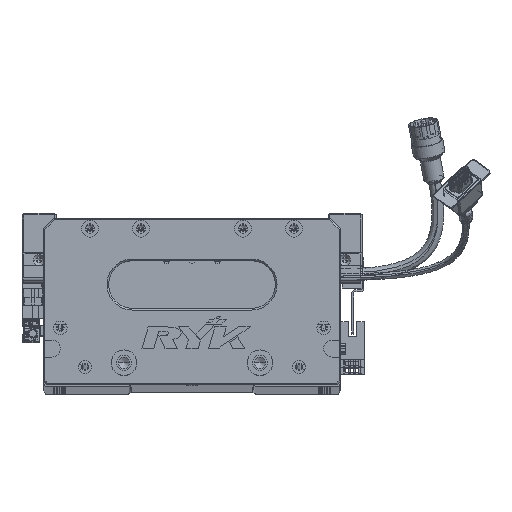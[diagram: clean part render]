
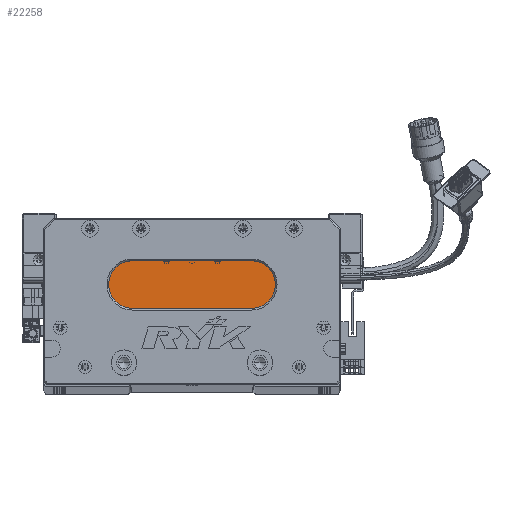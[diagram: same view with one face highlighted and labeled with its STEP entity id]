
A CAD part, top view. The second image highlights one B-rep face of the part: STEP entity #22258.
In plain terms, the highlighted planar face has unit normal (0, 0, 1) as drawn and (0, 0, -1) by its records, which use the part's own axes.
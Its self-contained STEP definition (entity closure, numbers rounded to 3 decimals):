
#352 = ORIENTED_EDGE ( 'NONE', *, *, #91911, .T. ) ;
#4064 = ORIENTED_EDGE ( 'NONE', *, *, #106538, .T. ) ;
#5101 = VERTEX_POINT ( 'NONE', #61470 ) ;
#6335 = CARTESIAN_POINT ( 'NONE',  ( 122.5, 45., 18. ) ) ;
#9171 = DIRECTION ( 'NONE',  ( -1., 0., 0. ) ) ;
#9575 = CARTESIAN_POINT ( 'NONE',  ( 122.5, 59., 18. ) ) ;
#10526 = CARTESIAN_POINT ( 'NONE',  ( 52.5, 59., 18. ) ) ;
#11102 = VERTEX_POINT ( 'NONE', #87379 ) ;
#22258 = ADVANCED_FACE ( 'NONE', ( #113887 ), #47347, .T. ) ;
#32051 = DIRECTION ( 'NONE',  ( 0., 0., -1. ) ) ;
#36677 = VECTOR ( 'NONE', #85733, 1000. ) ;
#43635 = VERTEX_POINT ( 'NONE', #114577 ) ;
#45550 = AXIS2_PLACEMENT_3D ( 'NONE', #10526, #119510, #118675 ) ;
#46745 = CIRCLE ( 'NONE', #45550, 14. ) ;
#47347 = PLANE ( 'NONE',  #82382 ) ;
#50653 = ORIENTED_EDGE ( 'NONE', *, *, #110152, .T. ) ;
#54072 = VERTEX_POINT ( 'NONE', #109776 ) ;
#55161 = CARTESIAN_POINT ( 'NONE',  ( 122.5, 73., 18. ) ) ;
#61470 = CARTESIAN_POINT ( 'NONE',  ( 122.5, 73., 18. ) ) ;
#62765 = LINE ( 'NONE', #6335, #36677 ) ;
#62975 = CARTESIAN_POINT ( 'NONE',  ( 38.5, 59., 18. ) ) ;
#66333 = CIRCLE ( 'NONE', #125462, 14. ) ;
#73838 = VECTOR ( 'NONE', #123802, 1000. ) ;
#74334 = AXIS2_PLACEMENT_3D ( 'NONE', #109785, #32051, #81437 ) ;
#76389 = EDGE_CURVE ( 'NONE', #92700, #54072, #46745, .T. ) ;
#76930 = DIRECTION ( 'NONE',  ( 0., 0., -1. ) ) ;
#77818 = EDGE_CURVE ( 'NONE', #54072, #5101, #87709, .T. ) ;
#78220 = DIRECTION ( 'NONE',  ( -1., 0., 0. ) ) ;
#79024 = EDGE_LOOP ( 'NONE', ( #50653, #4064, #352, #110062, #124443 ) ) ;
#81437 = DIRECTION ( 'NONE',  ( -1., 0., 0. ) ) ;
#82382 = AXIS2_PLACEMENT_3D ( 'NONE', #9575, #76930, #78220 ) ;
#85733 = DIRECTION ( 'NONE',  ( -1., 0., 0. ) ) ;
#86475 = CARTESIAN_POINT ( 'NONE',  ( 52.5, 59., 18. ) ) ;
#87338 = DIRECTION ( 'NONE',  ( 0., 0., -1. ) ) ;
#87379 = CARTESIAN_POINT ( 'NONE',  ( 122.5, 45., 18. ) ) ;
#87709 = LINE ( 'NONE', #55161, #73838 ) ;
#91911 = EDGE_CURVE ( 'NONE', #43635, #92700, #66333, .T. ) ;
#92700 = VERTEX_POINT ( 'NONE', #62975 ) ;
#106538 = EDGE_CURVE ( 'NONE', #11102, #43635, #62765, .T. ) ;
#109776 = CARTESIAN_POINT ( 'NONE',  ( 52.5, 73., 18. ) ) ;
#109785 = CARTESIAN_POINT ( 'NONE',  ( 122.5, 59., 18. ) ) ;
#110062 = ORIENTED_EDGE ( 'NONE', *, *, #76389, .T. ) ;
#110152 = EDGE_CURVE ( 'NONE', #5101, #11102, #123276, .T. ) ;
#113887 = FACE_OUTER_BOUND ( 'NONE', #79024, .T. ) ;
#114577 = CARTESIAN_POINT ( 'NONE',  ( 52.5, 45., 18. ) ) ;
#118675 = DIRECTION ( 'NONE',  ( -1., 0., 0. ) ) ;
#119510 = DIRECTION ( 'NONE',  ( 0., 0., -1. ) ) ;
#123276 = CIRCLE ( 'NONE', #74334, 14. ) ;
#123802 = DIRECTION ( 'NONE',  ( 1., 0., 0. ) ) ;
#124443 = ORIENTED_EDGE ( 'NONE', *, *, #77818, .T. ) ;
#125462 = AXIS2_PLACEMENT_3D ( 'NONE', #86475, #87338, #9171 ) ;
